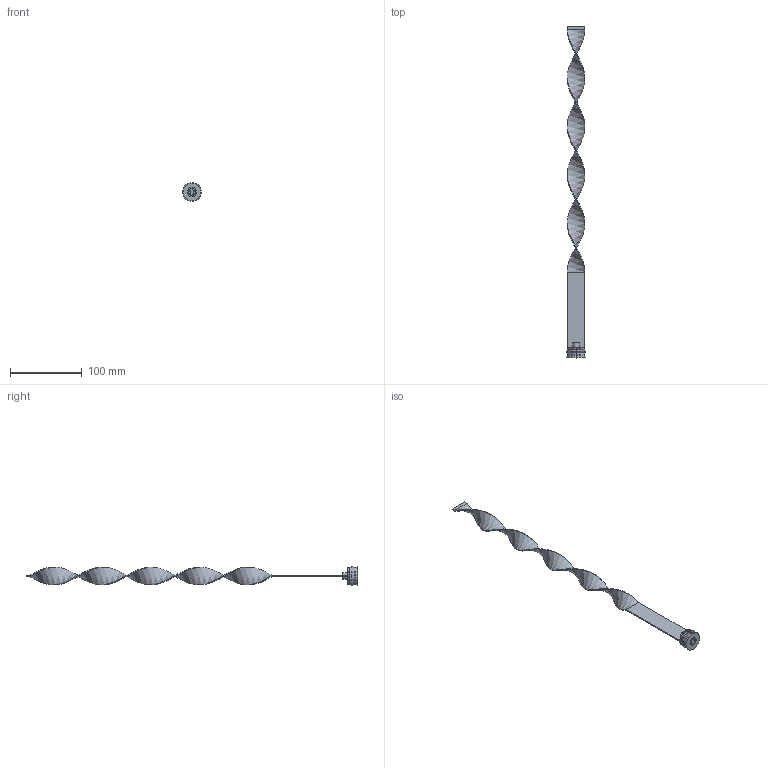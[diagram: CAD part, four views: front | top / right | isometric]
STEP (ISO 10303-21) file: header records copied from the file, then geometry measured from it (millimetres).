
FILE_DESCRIPTION (( 'STEP AP203' ), '1' );
FILE_NAME ('RLS-25Fx450-24,5.STEP', '2015-12-10T15:38:15', ( 'Balzi' ), ( '' ), 'SwSTEP 2.0', 'SolidWorks 2015', '' );
FILE_SCHEMA (( 'CONFIG_CONTROL_DESIGN' ));
Length unit declared in the file: millimetre
Products named in the file (1): RLS-25Fx450-24,5
Bounding box: 26.5 x 464 x 26.5 mm (x, y, z)
Volume: 23457.4 mm3; surface area: 27210.7 mm2
Topology: 1 solids, 1 shells, 83 faces, 193 edges, 117 vertices
Faces by surface type: plane 35, cone 19, cylinder 17, torus 8, bspline 4
Entity records: 4697 total; most frequent: CARTESIAN_POINT 2740, DIRECTION 402, ORIENTED_EDGE 386, EDGE_CURVE 193, AXIS2_PLACEMENT_3D 151, VERTEX_POINT 117, VECTOR 100, LINE 100
